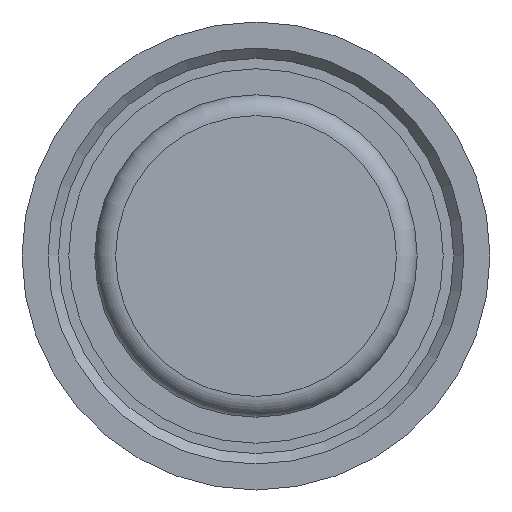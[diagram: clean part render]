
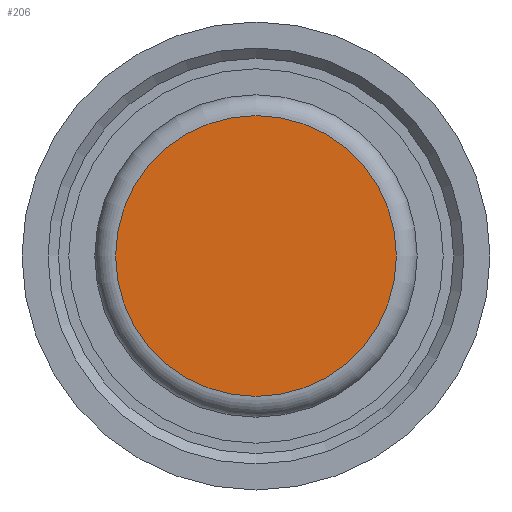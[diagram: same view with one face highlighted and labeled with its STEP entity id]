
A CAD part, front view. The second image highlights one B-rep face of the part: STEP entity #206.
In plain terms, the highlighted planar face has unit normal (0, -1, 0).
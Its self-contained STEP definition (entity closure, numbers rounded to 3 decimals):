
#37=FACE_OUTER_BOUND('',#442,.T.);
#151=PLANE('',#854);
#206=ADVANCED_FACE('',(#37),#151,.T.);
#442=EDGE_LOOP('',(#558));
#558=ORIENTED_EDGE('',*,*,#686,.T.);
#628=VERTEX_POINT('',#1265);
#686=EDGE_CURVE('',#628,#628,#744,.T.);
#744=CIRCLE('',#853,6.75);
#853=AXIS2_PLACEMENT_3D('',#1264,#1073,#1074);
#854=AXIS2_PLACEMENT_3D('',#1266,#1075,#1076);
#1073=DIRECTION('',(0.,-1.,0.));
#1074=DIRECTION('',(0.,0.,-1.));
#1075=DIRECTION('',(0.,-1.,0.));
#1076=DIRECTION('',(0.,0.,-1.));
#1264=CARTESIAN_POINT('',(-125.212,-8.996,0.));
#1265=CARTESIAN_POINT('',(-125.212,-8.996,-6.75));
#1266=CARTESIAN_POINT('',(-125.212,-8.996,0.));
